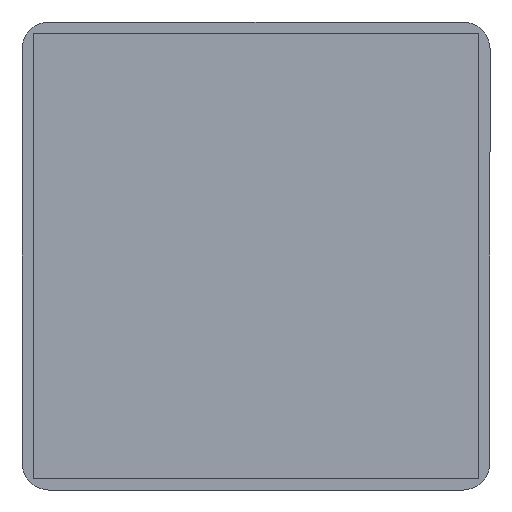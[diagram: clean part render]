
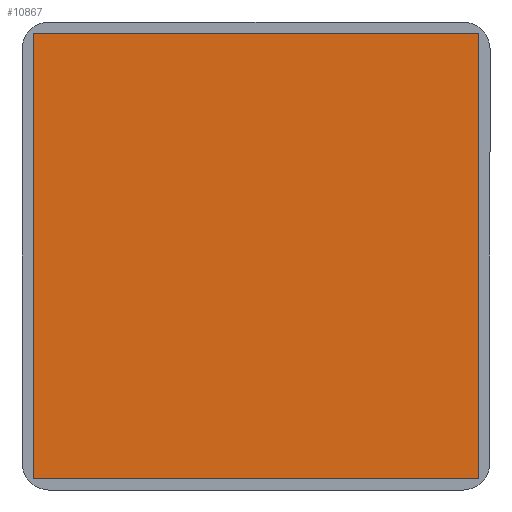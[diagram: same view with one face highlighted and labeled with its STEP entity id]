
A CAD part, front view. The second image highlights one B-rep face of the part: STEP entity #10867.
In plain terms, the highlighted planar face has unit normal (0, -1, 0).
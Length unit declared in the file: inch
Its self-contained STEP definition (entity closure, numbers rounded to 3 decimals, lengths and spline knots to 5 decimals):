
#11 = DIRECTION ( 'NONE',  ( 0., 0., -1. ) ) ;
#35 = ORIENTED_EDGE ( 'NONE', *, *, #2138, .T. ) ;
#486 = VERTEX_POINT ( 'NONE', #9379 ) ;
#725 = EDGE_LOOP ( 'NONE', ( #1533, #35, #4614, #6162 ) ) ;
#1215 = VECTOR ( 'NONE', #6916, 39.37008 ) ;
#1482 = DIRECTION ( 'NONE',  ( 1., 0., 0. ) ) ;
#1523 = CARTESIAN_POINT ( 'NONE',  ( 0.64961, -0.005, 0.64961 ) ) ;
#1533 = ORIENTED_EDGE ( 'NONE', *, *, #4230, .T. ) ;
#1592 = DIRECTION ( 'NONE',  ( 0., -1., 0. ) ) ;
#1631 = VECTOR ( 'NONE', #11, 39.37008 ) ;
#2129 = DIRECTION ( 'NONE',  ( -1., 0., 0. ) ) ;
#2138 = EDGE_CURVE ( 'NONE', #7473, #6114, #3252, .T. ) ;
#2240 = AXIS2_PLACEMENT_3D ( 'NONE', #1523, #1592, #8713 ) ;
#2314 = CARTESIAN_POINT ( 'NONE',  ( 0.64961, -0.005, 0.64961 ) ) ;
#3252 = LINE ( 'NONE', #2314, #8408 ) ;
#4230 = EDGE_CURVE ( 'NONE', #486, #7473, #5001, .T. ) ;
#4614 = ORIENTED_EDGE ( 'NONE', *, *, #12189, .T. ) ;
#5001 = LINE ( 'NONE', #7043, #1215 ) ;
#5046 = CARTESIAN_POINT ( 'NONE',  ( -0.64961, -0.005, 0.64961 ) ) ;
#5221 = FACE_OUTER_BOUND ( 'NONE', #725, .T. ) ;
#5990 = VECTOR ( 'NONE', #1482, 39.37008 ) ;
#6028 = VERTEX_POINT ( 'NONE', #6960 ) ;
#6114 = VERTEX_POINT ( 'NONE', #5046 ) ;
#6162 = ORIENTED_EDGE ( 'NONE', *, *, #12932, .T. ) ;
#6905 = LINE ( 'NONE', #11918, #5990 ) ;
#6916 = DIRECTION ( 'NONE',  ( 0., 0., 1. ) ) ;
#6960 = CARTESIAN_POINT ( 'NONE',  ( -0.64961, -0.005, -0.64961 ) ) ;
#7043 = CARTESIAN_POINT ( 'NONE',  ( 0.64961, -0.005, -0.64961 ) ) ;
#7464 = PLANE ( 'NONE',  #2240 ) ;
#7473 = VERTEX_POINT ( 'NONE', #10448 ) ;
#8408 = VECTOR ( 'NONE', #2129, 39.37008 ) ;
#8474 = CARTESIAN_POINT ( 'NONE',  ( -0.64961, -0.005, -0.64961 ) ) ;
#8713 = DIRECTION ( 'NONE',  ( 0., 0., 1. ) ) ;
#9379 = CARTESIAN_POINT ( 'NONE',  ( 0.64961, -0.005, -0.64961 ) ) ;
#10448 = CARTESIAN_POINT ( 'NONE',  ( 0.64961, -0.005, 0.64961 ) ) ;
#10867 = ADVANCED_FACE ( 'NONE', ( #5221 ), #7464, .T. ) ;
#11918 = CARTESIAN_POINT ( 'NONE',  ( 0.64961, -0.005, -0.64961 ) ) ;
#12189 = EDGE_CURVE ( 'NONE', #6114, #6028, #13435, .T. ) ;
#12932 = EDGE_CURVE ( 'NONE', #6028, #486, #6905, .T. ) ;
#13435 = LINE ( 'NONE', #8474, #1631 ) ;
